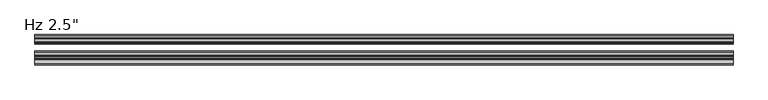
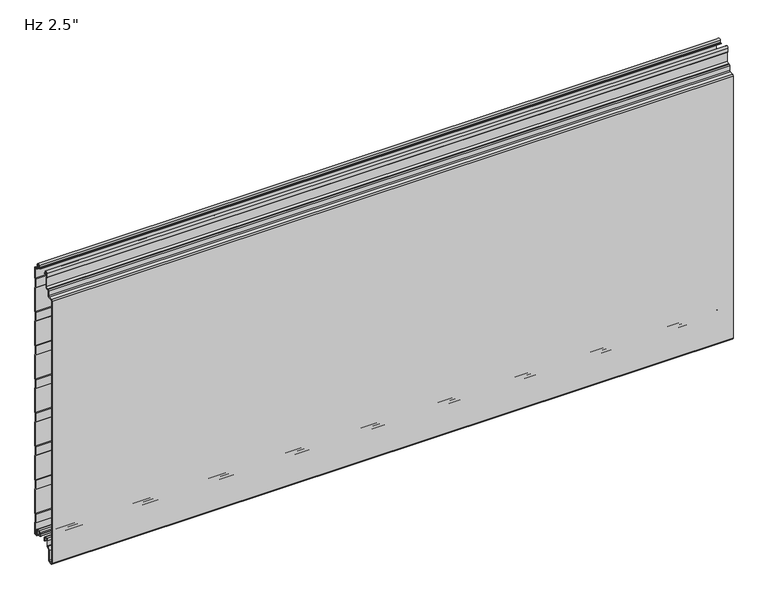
"""IFC4 building model written with IfcOpenShell, lengths in millimetres: plate geometry."""

from ifc_helpers import new_model, si_unit, point, frame, frame_2d, origin, place, context, project, spatial, polyline, circle_curve, trimmed, segment, composite_curve, outline, extrude, source, transform, mapped, element, save
from ifc_brep_helpers import plane_surface, cylinder_surface, revolved_surface, advanced_brep


def plate_216ce73a(model_context):
    return source(origin(), model_context, "Body", "SolidModel", [
        advanced_brep(
        [(-730.0, -17.0015159, 2.0313088), (-730.0, -18.0015191, 1.0313116), (-730.0, -19.0015104, 2.0313088), (-730.0, -19.0015105, 6.0315125), (-730.0, -18.0015159, 6.0315125), (-730.0, -18.0015159, 8.7237223), (-730.0, -14.7015202, 12.023718), (-730.0, -10.301529, 12.023718), (-730.0, -7.0015335, 8.7237225), (-730.0, -7.0015335, -1.6962564), (-730.0, -5.2315393, -3.4662506), (-730.0, -0.9999916, -3.4662506), (-730.0, -0.9999916, 21.034026), (-730.0, -2.2002307, 22.4196686), (-730.0, -2.2002307, 41.7948349), (-730.0, -1.0, 43.1804679), (-730.0, -1.0, 97.2338833), (-730.0, -2.2002307, 98.6195162), (-730.0, -2.2002307, 117.9946825), (-730.0, -1.0, 119.3803155), (-730.0, -1.0, 173.4337309), (-730.0, -2.2002307, 174.8193638), (-730.0, -2.2002307, 194.1945301), (-730.0, -1.0, 195.5801631), (-730.0, -1.0, 249.6335785), (-730.0, -2.2002307, 251.0192114), (-730.0, -2.2002307, 270.3943777), (-730.0, -1.0, 271.7800107), (-730.0, -1.0, 325.8334261), (-730.0, -2.2002307, 327.219059), (-730.0, -2.2002307, 346.5942253), (-730.0, -1.0, 347.9798583), (-730.0, -1.0, 402.0332737), (-730.0, -2.2002307, 403.4189066), (-730.0, -2.2002307, 422.7940729), (-730.0, -1.0, 424.1797059), (-730.0, -1.0, 478.2331213), (-730.0, -2.2002307, 479.6187542), (-730.0, -2.2002307, 498.9939205), (-730.0, -1.0, 500.3795535), (-730.0, -1.0, 554.4329689), (-730.0, -2.2002307, 555.8186018), (-730.0, -2.2002307, 575.1937681), (-730.0, -1.0, 576.5794011), (-730.0, -1.0, 601.0787013), (-730.0, -6.0026007, 601.0787013), (-730.0, -9.9974365, 604.9016499), (-730.0, -10.4046442, 613.3931719), (-730.0, -14.7059822, 613.3921924), (-730.0, -14.9256429, 609.2513685), (-730.0, -16.6743462, 607.5686884), (-730.0, -19.0015288, 607.5686884), (-730.0, -19.0015288, 608.5686884), (-730.0, -16.6743462, 608.5686884), (-730.0, -15.9247038, 609.2955779), (-730.0, -15.7045782, 613.4451655), (-730.0, -9.405912, 613.4435732), (-730.0, -8.9985844, 604.9495495), (-730.0, -6.0004836, 602.0787013), (-730.0, -1.4015652, 602.0787013), (-730.0, -0.001568, 600.678797), (-730.0, 2.09e-05, 576.7275849), (-730.0, -0.3417885, 575.8119353), (-730.0, -1.2002307, 574.8208877), (-730.0, -1.2002307, 556.1914823), (-730.0, -0.3417885, 555.2004346), (-730.0, 0.0, 554.2838177), (-730.0, 0.0, 500.5287046), (-730.0, -0.3417885, 499.6120877), (-730.0, -1.2002307, 498.6210401), (-730.0, -1.2002307, 479.9916347), (-730.0, -0.3417885, 479.000587), (-730.0, 0.0, 478.0839701), (-730.0, 0.0, 424.328857), (-730.0, -0.3417885, 423.4122401), (-730.0, -1.2002307, 422.4211925), (-730.0, -1.2002307, 403.7917871), (-730.0, -0.3417885, 402.8007394), (-730.0, 0.0, 401.8841225), (-730.0, 0.0, 348.1290094), (-730.0, -0.3417885, 347.2123925), (-730.0, -1.2002307, 346.2213449), (-730.0, -1.2002307, 327.5919395), (-730.0, -0.3417885, 326.6008918), (-730.0, 0.0, 325.6842749), (-730.0, 0.0, 271.9291618), (-730.0, -0.3417885, 271.0125449), (-730.0, -1.2002307, 270.0214973), (-730.0, -1.2002307, 251.3920919), (-730.0, -0.3417885, 250.4010442), (-730.0, 0.0, 249.4844273), (-730.0, 0.0, 195.7293142), (-730.0, -0.3417885, 194.8126973), (-730.0, -1.2002307, 193.8216497), (-730.0, -1.2002307, 175.1922443), (-730.0, -0.3417885, 174.2011966), (-730.0, 0.0, 173.2845797), (-730.0, 0.0, 119.5294666), (-730.0, -0.3417885, 118.6128497), (-730.0, -1.2002307, 117.6218021), (-730.0, -1.2002307, 98.9923967), (-730.0, -0.3417885, 98.001349), (-730.0, 0.0, 97.0847321), (-730.0, 0.0, 43.329619), (-730.0, -0.3417885, 42.4130021), (-730.0, -1.2002307, 41.4219545), (-730.0, -1.2002307, 22.7925491), (-730.0, -0.3417885, 21.8015014), (-730.0, 0.0, 20.8847931), (-730.0, 8.4e-06, -3.0662545), (-730.0, -1.3999878, -4.4662506), (-730.0, -5.2315393, -4.4662506), (-730.0, -8.0015335, -1.6962564), (-730.0, -8.0015335, 8.7237225), (-730.0, -10.301529, 11.023718), (-730.0, -14.7015202, 11.023718), (-730.0, -17.0015159, 8.7237223), (730.0, -17.0015159, 2.0313088), (730.0, -17.0015159, 8.7237223), (730.0, -14.7015202, 11.023718), (730.0, -10.301529, 11.023718), (730.0, -8.0015335, 8.7237225), (730.0, -8.0015335, -1.6962564), (730.0, -5.2315393, -4.4662506), (730.0, -1.3999878, -4.4662506), (730.0, 8.4e-06, -3.0662545), (730.0, 8.4e-06, 20.8848845), (730.0, -0.3417885, 21.8015014), (730.0, -1.2002307, 22.7925491), (730.0, -1.2002307, 41.4219545), (730.0, -0.3417885, 42.4130021), (730.0, 0.0, 43.329619), (730.0, 0.0, 97.0847321), (730.0, -0.3417885, 98.001349), (730.0, -1.2002307, 98.9923967), (730.0, -1.2002307, 117.6218021), (730.0, -0.3417885, 118.6128497), (730.0, 0.0, 119.5294666), (730.0, 0.0, 173.2845797), (730.0, -0.3417885, 174.2011966), (730.0, -1.2002307, 175.1922443), (730.0, -1.2002307, 193.8216497), (730.0, -0.3417885, 194.8126973), (730.0, 0.0, 195.7293142), (730.0, 0.0, 249.4844273), (730.0, -0.3417885, 250.4010442), (730.0, -1.2002307, 251.3920919), (730.0, -1.2002307, 270.0214973), (730.0, -0.3417885, 271.0125449), (730.0, 0.0, 271.9291618), (730.0, 0.0, 325.6842749), (730.0, -0.3417885, 326.6008918), (730.0, -1.2002307, 327.5919395), (730.0, -1.2002307, 346.2213449), (730.0, -0.3417885, 347.2123925), (730.0, 0.0, 348.1290094), (730.0, 0.0, 401.8841225), (730.0, -0.3417885, 402.8007394), (730.0, -1.2002307, 403.7917871), (730.0, -1.2002307, 422.4211925), (730.0, -0.3417885, 423.4122401), (730.0, 0.0, 424.328857), (730.0, 0.0, 478.0839701), (730.0, -0.3417885, 479.000587), (730.0, -1.2002307, 479.9916347), (730.0, -1.2002307, 498.6210401), (730.0, -0.3417885, 499.6120877), (730.0, 0.0, 500.5287046), (730.0, 0.0, 554.2838177), (730.0, -0.3417885, 555.2004346), (730.0, -1.2002307, 556.1914823), (730.0, -1.2002307, 574.8208877), (730.0, -0.3417885, 575.8119353), (730.0, 0.0, 576.7285522), (730.0, 2.09e-05, 600.678797), (730.0, -1.4015652, 602.0787013), (730.0, -6.0004836, 602.0787013), (730.0, -8.9985844, 604.9495495), (730.0, -9.405912, 613.4435732), (730.0, -15.7045782, 613.4451655), (730.0, -15.9247038, 609.2955779), (730.0, -16.6743462, 608.5686884), (730.0, -19.0015288, 608.5686884), (730.0, -19.0015288, 607.5686884), (730.0, -16.6743462, 607.5686884), (730.0, -14.9256429, 609.2513685), (730.0, -14.7059822, 613.3921924), (730.0, -10.4046442, 613.3931719), (730.0, -9.9974365, 604.9016499), (730.0, -6.0026007, 601.0787013), (730.0, -1.0, 601.0787013), (730.0, -1.0, 576.5794011), (730.0, -2.2002307, 575.1937681), (730.0, -2.2002307, 555.8186018), (730.0, -1.0, 554.4329689), (730.0, -1.0, 500.3795535), (730.0, -2.2002307, 498.9939205), (730.0, -2.2002307, 479.6187542), (730.0, -1.0, 478.2331213), (730.0, -1.0, 424.1797059), (730.0, -2.2002307, 422.7940729), (730.0, -2.2002307, 403.4189066), (730.0, -1.0, 402.0332737), (730.0, -1.0, 347.9798583), (730.0, -2.2002307, 346.5942253), (730.0, -2.2002307, 327.219059), (730.0, -1.0, 325.8334261), (730.0, -1.0, 271.7800107), (730.0, -2.2002307, 270.3943777), (730.0, -2.2002307, 251.0192114), (730.0, -1.0, 249.6335785), (730.0, -1.0, 195.5801631), (730.0, -2.2002307, 194.1945301), (730.0, -2.2002307, 174.8193638), (730.0, -1.0, 173.4337309), (730.0, -1.0, 119.3803155), (730.0, -2.2002307, 117.9946825), (730.0, -2.2002307, 98.6195162), (730.0, -1.0, 97.2338833), (730.0, -1.0, 43.1804679), (730.0, -2.2002307, 41.7948349), (730.0, -2.2002307, 22.4196686), (730.0, -0.9999916, 21.034026), (730.0, -0.9999916, -3.4662506), (730.0, -5.2315393, -3.4662506), (730.0, -7.0015335, -1.6962564), (730.0, -7.0015335, 8.7237225), (730.0, -10.301529, 12.023718), (730.0, -14.7015202, 12.023718), (730.0, -18.0015159, 8.7237223), (730.0, -18.0015159, 6.0315125), (730.0, -19.0015105, 6.0315125), (730.0, -19.0015105, 2.0313088), (730.0, -18.0015191, 1.0313116)],
        [
            (0, 1, circle_curve(frame((-730.0, -18.0015132, 2.0313088), z_axis=(-1.0, 0.0, 0.0), x_axis=(0.0, 0.0, 1.0)), 0.9999973)),
            (1, 2, circle_curve(frame((-730.0, -18.0015132, 2.0313088), z_axis=(-1.0, 0.0, 0.0), x_axis=(0.0, 0.0, 1.0)), 0.9999972)),
            (2, 3),
            (3, 4),
            (4, 5),
            (5, 6, circle_curve(frame((-730.0, -14.7015202, 8.7237223), z_axis=(-1.0, 0.0, 0.0), x_axis=(0.0, 0.0, 1.0)), 3.2999957)),
            (6, 7),
            (7, 8, circle_curve(frame((-730.0, -10.301529, 8.7237225), z_axis=(-1.0, 0.0, 0.0), x_axis=(0.0, 0.0, 1.0)), 3.2999955)),
            (8, 9),
            (9, 10, circle_curve(frame((-730.0, -5.2315393, -1.6962564), z_axis=(1.0, 0.0, 0.0), x_axis=(0.0, 0.0, 1.0)), 1.7699942)),
            (10, 11),
            (11, 12),
            (12, 13),
            (13, 14),
            (14, 15),
            (15, 16),
            (16, 17),
            (17, 18),
            (18, 19),
            (19, 20),
            (20, 21),
            (21, 22),
            (22, 23),
            (23, 24),
            (24, 25),
            (25, 26),
            (26, 27),
            (27, 28),
            (28, 29),
            (29, 30),
            (30, 31),
            (31, 32),
            (32, 33),
            (33, 34),
            (34, 35),
            (35, 36),
            (36, 37),
            (37, 38),
            (38, 39),
            (39, 40),
            (40, 41),
            (41, 42),
            (42, 43),
            (43, 44),
            (44, 45),
            (45, 46, circle_curve(frame((-730.0, -5.9867338, 605.0939817), z_axis=(-1.0, 0.0, 0.0), x_axis=(0.0, 0.0, 1.0)), 4.0153117)),
            (46, 47),
            (47, 48, circle_curve(frame((-730.0, -12.5552871, 613.2781032), z_axis=(1.0, 0.0, 0.0), x_axis=(0.0, 0.0, 1.0)), 2.153719)),
            (48, 49),
            (49, 50, circle_curve(frame((-730.0, -16.6743462, 609.3186869), z_axis=(-1.0, 0.0, 0.0), x_axis=(0.0, 0.0, 1.0)), 1.7499985)),
            (50, 51),
            (51, 52),
            (52, 53),
            (53, 54, circle_curve(frame((-730.0, -16.6743462, 609.3186869), z_axis=(1.0, 0.0, 0.0), x_axis=(0.0, 0.0, 1.0)), 0.7499985)),
            (54, 55),
            (55, 56, circle_curve(frame((-730.0, -12.5552871, 613.2781032), z_axis=(-1.0, 0.0, 0.0), x_axis=(0.0, 0.0, 1.0)), 3.153719)),
            (56, 57),
            (57, 58, circle_curve(frame((-730.0, -5.9867338, 605.0939817), z_axis=(1.0, 0.0, 0.0), x_axis=(0.0, 0.0, 1.0)), 3.0153117)),
            (58, 59),
            (59, 60, circle_curve(frame((-730.0, -1.4015652, 600.6787041), z_axis=(-1.0, 0.0, 0.0), x_axis=(0.0, 0.0, 1.0)), 1.3999972)),
            (60, 61),
            (61, 62, circle_curve(frame((-730.0, -1.3999972, 576.7285522), z_axis=(-1.0, 0.0, 0.0), x_axis=(0.0, 0.0, 1.0)), 1.3999972)),
            (62, 63),
            (63, 64),
            (64, 65),
            (65, 66, circle_curve(frame((-730.0, -1.3999972, 554.2838177), z_axis=(-1.0, 0.0, 0.0), x_axis=(0.0, 0.0, 1.0)), 1.3999972)),
            (66, 67),
            (67, 68, circle_curve(frame((-730.0, -1.3999972, 500.5287046), z_axis=(-1.0, 0.0, 0.0), x_axis=(0.0, 0.0, 1.0)), 1.3999972)),
            (68, 69),
            (69, 70),
            (70, 71),
            (71, 72, circle_curve(frame((-730.0, -1.3999972, 478.0839701), z_axis=(-1.0, 0.0, 0.0), x_axis=(0.0, 0.0, 1.0)), 1.3999972)),
            (72, 73),
            (73, 74, circle_curve(frame((-730.0, -1.3999972, 424.328857), z_axis=(-1.0, 0.0, 0.0), x_axis=(0.0, 0.0, 1.0)), 1.3999972)),
            (74, 75),
            (75, 76),
            (76, 77),
            (77, 78, circle_curve(frame((-730.0, -1.3999972, 401.8841225), z_axis=(-1.0, 0.0, 0.0), x_axis=(0.0, 0.0, 1.0)), 1.3999972)),
            (78, 79),
            (79, 80, circle_curve(frame((-730.0, -1.3999972, 348.1290094), z_axis=(-1.0, 0.0, 0.0), x_axis=(0.0, 0.0, 1.0)), 1.3999972)),
            (80, 81),
            (81, 82),
            (82, 83),
            (83, 84, circle_curve(frame((-730.0, -1.3999972, 325.6842749), z_axis=(-1.0, 0.0, 0.0), x_axis=(0.0, 0.0, 1.0)), 1.3999972)),
            (84, 85),
            (85, 86, circle_curve(frame((-730.0, -1.3999972, 271.9291618), z_axis=(-1.0, 0.0, 0.0), x_axis=(0.0, 0.0, 1.0)), 1.3999972)),
            (86, 87),
            (87, 88),
            (88, 89),
            (89, 90, circle_curve(frame((-730.0, -1.3999972, 249.4844273), z_axis=(-1.0, 0.0, 0.0), x_axis=(0.0, 0.0, 1.0)), 1.3999972)),
            (90, 91),
            (91, 92, circle_curve(frame((-730.0, -1.3999972, 195.7293142), z_axis=(-1.0, 0.0, 0.0), x_axis=(0.0, 0.0, 1.0)), 1.3999972)),
            (92, 93),
            (93, 94),
            (94, 95),
            (95, 96, circle_curve(frame((-730.0, -1.3999972, 173.2845797), z_axis=(-1.0, 0.0, 0.0), x_axis=(0.0, 0.0, 1.0)), 1.3999972)),
            (96, 97),
            (97, 98, circle_curve(frame((-730.0, -1.3999972, 119.5294666), z_axis=(-1.0, 0.0, 0.0), x_axis=(0.0, 0.0, 1.0)), 1.3999972)),
            (98, 99),
            (99, 100),
            (100, 101),
            (101, 102, circle_curve(frame((-730.0, -1.3999972, 97.0847321), z_axis=(-1.0, 0.0, 0.0), x_axis=(0.0, 0.0, 1.0)), 1.3999972)),
            (102, 103),
            (103, 104, circle_curve(frame((-730.0, -1.3999972, 43.329619), z_axis=(-1.0, 0.0, 0.0), x_axis=(0.0, 0.0, 1.0)), 1.3999972)),
            (104, 105),
            (105, 106),
            (106, 107),
            (107, 108, circle_curve(frame((-730.0, -1.3999972, 20.8848845), z_axis=(-1.0, 0.0, 0.0), x_axis=(0.0, 0.0, 1.0)), 1.3999972)),
            (108, 109),
            (109, 110, circle_curve(frame((-730.0, -1.3999878, -3.0662545), z_axis=(-1.0, 0.0, 0.0), x_axis=(0.0, 0.0, 1.0)), 1.3999962)),
            (110, 111),
            (111, 112, circle_curve(frame((-730.0, -5.2315393, -1.6962564), z_axis=(-1.0, 0.0, 0.0), x_axis=(0.0, 0.0, 1.0)), 2.7699942)),
            (112, 113),
            (113, 114, circle_curve(frame((-730.0, -10.301529, 8.7237225), z_axis=(1.0, 0.0, 0.0), x_axis=(0.0, 0.0, 1.0)), 2.2999955)),
            (114, 115),
            (115, 116, circle_curve(frame((-730.0, -14.7015202, 8.7237223), z_axis=(1.0, 0.0, 0.0), x_axis=(0.0, 0.0, 1.0)), 2.2999957)),
            (116, 0),
            (117, 118),
            (118, 119, circle_curve(frame((730.0, -14.7015202, 8.7237223), z_axis=(-1.0, 0.0, 0.0), x_axis=(0.0, 0.0, 1.0)), 2.2999957)),
            (119, 120),
            (120, 121, circle_curve(frame((730.0, -10.301529, 8.7237225), z_axis=(-1.0, 0.0, 0.0), x_axis=(0.0, 0.0, 1.0)), 2.2999955)),
            (121, 122),
            (122, 123, circle_curve(frame((730.0, -5.2315393, -1.6962564), z_axis=(1.0, 0.0, 0.0), x_axis=(0.0, 0.0, 1.0)), 2.7699942)),
            (123, 124),
            (124, 125, circle_curve(frame((730.0, -1.3999878, -3.0662545), z_axis=(1.0, 0.0, 0.0), x_axis=(0.0, 0.0, 1.0)), 1.3999962)),
            (125, 126),
            (126, 127, circle_curve(frame((730.0, -1.3999972, 20.8848845), z_axis=(1.0, 0.0, 0.0), x_axis=(0.0, 0.0, 1.0)), 1.3999972)),
            (127, 128),
            (128, 129),
            (129, 130),
            (130, 131, circle_curve(frame((730.0, -1.3999972, 43.329619), z_axis=(1.0, 0.0, 0.0), x_axis=(0.0, 0.0, 1.0)), 1.3999972)),
            (131, 132),
            (132, 133, circle_curve(frame((730.0, -1.3999972, 97.0847321), z_axis=(1.0, 0.0, 0.0), x_axis=(0.0, 0.0, 1.0)), 1.3999972)),
            (133, 134),
            (134, 135),
            (135, 136),
            (136, 137, circle_curve(frame((730.0, -1.3999972, 119.5294666), z_axis=(1.0, 0.0, 0.0), x_axis=(0.0, 0.0, 1.0)), 1.3999972)),
            (137, 138),
            (138, 139, circle_curve(frame((730.0, -1.3999972, 173.2845797), z_axis=(1.0, 0.0, 0.0), x_axis=(0.0, 0.0, 1.0)), 1.3999972)),
            (139, 140),
            (140, 141),
            (141, 142),
            (142, 143, circle_curve(frame((730.0, -1.3999972, 195.7293142), z_axis=(1.0, 0.0, 0.0), x_axis=(0.0, 0.0, 1.0)), 1.3999972)),
            (143, 144),
            (144, 145, circle_curve(frame((730.0, -1.3999972, 249.4844273), z_axis=(1.0, 0.0, 0.0), x_axis=(0.0, 0.0, 1.0)), 1.3999972)),
            (145, 146),
            (146, 147),
            (147, 148),
            (148, 149, circle_curve(frame((730.0, -1.3999972, 271.9291618), z_axis=(1.0, 0.0, 0.0), x_axis=(0.0, 0.0, 1.0)), 1.3999972)),
            (149, 150),
            (150, 151, circle_curve(frame((730.0, -1.3999972, 325.6842749), z_axis=(1.0, 0.0, 0.0), x_axis=(0.0, 0.0, 1.0)), 1.3999972)),
            (151, 152),
            (152, 153),
            (153, 154),
            (154, 155, circle_curve(frame((730.0, -1.3999972, 348.1290094), z_axis=(1.0, 0.0, 0.0), x_axis=(0.0, 0.0, 1.0)), 1.3999972)),
            (155, 156),
            (156, 157, circle_curve(frame((730.0, -1.3999972, 401.8841225), z_axis=(1.0, 0.0, 0.0), x_axis=(0.0, 0.0, 1.0)), 1.3999972)),
            (157, 158),
            (158, 159),
            (159, 160),
            (160, 161, circle_curve(frame((730.0, -1.3999972, 424.328857), z_axis=(1.0, 0.0, 0.0), x_axis=(0.0, 0.0, 1.0)), 1.3999972)),
            (161, 162),
            (162, 163, circle_curve(frame((730.0, -1.3999972, 478.0839701), z_axis=(1.0, 0.0, 0.0), x_axis=(0.0, 0.0, 1.0)), 1.3999972)),
            (163, 164),
            (164, 165),
            (165, 166),
            (166, 167, circle_curve(frame((730.0, -1.3999972, 500.5287046), z_axis=(1.0, 0.0, 0.0), x_axis=(0.0, 0.0, 1.0)), 1.3999972)),
            (167, 168),
            (168, 169, circle_curve(frame((730.0, -1.3999972, 554.2838177), z_axis=(1.0, 0.0, 0.0), x_axis=(0.0, 0.0, 1.0)), 1.3999972)),
            (169, 170),
            (170, 171),
            (171, 172),
            (172, 173, circle_curve(frame((730.0, -1.3999972, 576.7285522), z_axis=(1.0, 0.0, 0.0), x_axis=(0.0, 0.0, 1.0)), 1.3999972)),
            (173, 174),
            (174, 175, circle_curve(frame((730.0, -1.4015652, 600.6787041), z_axis=(1.0, 0.0, 0.0), x_axis=(0.0, 0.0, 1.0)), 1.3999972)),
            (175, 176),
            (176, 177, circle_curve(frame((730.0, -5.9867338, 605.0939817), z_axis=(-1.0, 0.0, 0.0), x_axis=(0.0, 0.0, 1.0)), 3.0153117)),
            (177, 178),
            (178, 179, circle_curve(frame((730.0, -12.5552871, 613.2781032), z_axis=(1.0, 0.0, 0.0), x_axis=(0.0, 0.0, 1.0)), 3.153719)),
            (179, 180),
            (180, 181, circle_curve(frame((730.0, -16.6743462, 609.3186869), z_axis=(-1.0, 0.0, 0.0), x_axis=(0.0, 0.0, 1.0)), 0.7499985)),
            (181, 182),
            (182, 183),
            (183, 184),
            (184, 185, circle_curve(frame((730.0, -16.6743462, 609.3186869), z_axis=(1.0, 0.0, 0.0), x_axis=(0.0, 0.0, 1.0)), 1.7499985)),
            (185, 186),
            (186, 187, circle_curve(frame((730.0, -12.5552871, 613.2781032), z_axis=(-1.0, 0.0, 0.0), x_axis=(0.0, 0.0, 1.0)), 2.153719)),
            (187, 188),
            (188, 189, circle_curve(frame((730.0, -5.9867338, 605.0939817), z_axis=(1.0, 0.0, 0.0), x_axis=(0.0, 0.0, 1.0)), 4.0153117)),
            (189, 190),
            (190, 191),
            (191, 192),
            (192, 193),
            (193, 194),
            (194, 195),
            (195, 196),
            (196, 197),
            (197, 198),
            (198, 199),
            (199, 200),
            (200, 201),
            (201, 202),
            (202, 203),
            (203, 204),
            (204, 205),
            (205, 206),
            (206, 207),
            (207, 208),
            (208, 209),
            (209, 210),
            (210, 211),
            (211, 212),
            (212, 213),
            (213, 214),
            (214, 215),
            (215, 216),
            (216, 217),
            (217, 218),
            (218, 219),
            (219, 220),
            (220, 221),
            (221, 222),
            (222, 223),
            (223, 224),
            (224, 225, circle_curve(frame((730.0, -5.2315393, -1.6962564), z_axis=(-1.0, 0.0, 0.0), x_axis=(0.0, 0.0, 1.0)), 1.7699942)),
            (225, 226),
            (226, 227, circle_curve(frame((730.0, -10.301529, 8.7237225), z_axis=(1.0, 0.0, 0.0), x_axis=(0.0, 0.0, 1.0)), 3.2999955)),
            (227, 228),
            (228, 229, circle_curve(frame((730.0, -14.7015202, 8.7237223), z_axis=(1.0, 0.0, 0.0), x_axis=(0.0, 0.0, 1.0)), 3.2999957)),
            (229, 230),
            (230, 231),
            (231, 232),
            (232, 233, circle_curve(frame((730.0, -18.0015132, 2.0313088), z_axis=(1.0, 0.0, 0.0), x_axis=(0.0, 0.0, 1.0)), 0.9999972)),
            (233, 117, circle_curve(frame((730.0, -18.0015132, 2.0313088), z_axis=(1.0, 0.0, 0.0), x_axis=(0.0, 0.0, 1.0)), 0.9999973)),
            (116, 118),
            (117, 0),
            (115, 119),
            (114, 120),
            (113, 121),
            (112, 122),
            (111, 123),
            (110, 124),
            (109, 125),
            (108, 126),
            (90, 144),
            (143, 91),
            (107, 127),
            (106, 128),
            (105, 129),
            (103, 131),
            (130, 104),
            (101, 133),
            (132, 102),
            (86, 148),
            (147, 87),
            (142, 92),
            (141, 93),
            (96, 138),
            (137, 97),
            (89, 145),
            (88, 146),
            (85, 149),
            (136, 98),
            (99, 135),
            (134, 100),
            (95, 139),
            (94, 140),
            (2, 232),
            (231, 3),
            (1, 233),
            (84, 150),
            (83, 151),
            (82, 152),
            (81, 153),
            (80, 154),
            (79, 155),
            (78, 156),
            (77, 157),
            (76, 158),
            (75, 159),
            (74, 160),
            (73, 161),
            (72, 162),
            (71, 163),
            (70, 164),
            (69, 165),
            (68, 166),
            (67, 167),
            (66, 168),
            (65, 169),
            (64, 170),
            (63, 171),
            (62, 172),
            (61, 173),
            (60, 174),
            (59, 175),
            (58, 176),
            (57, 177),
            (56, 178),
            (55, 179),
            (54, 180),
            (53, 181),
            (52, 182),
            (51, 183),
            (50, 184),
            (49, 185),
            (48, 186),
            (47, 187),
            (46, 188),
            (45, 189),
            (44, 190),
            (43, 191),
            (42, 192),
            (41, 193),
            (40, 194),
            (39, 195),
            (38, 196),
            (37, 197),
            (36, 198),
            (35, 199),
            (34, 200),
            (33, 201),
            (32, 202),
            (31, 203),
            (30, 204),
            (29, 205),
            (28, 206),
            (27, 207),
            (26, 208),
            (25, 209),
            (24, 210),
            (23, 211),
            (22, 212),
            (21, 213),
            (20, 214),
            (19, 215),
            (18, 216),
            (17, 217),
            (16, 218),
            (15, 219),
            (14, 220),
            (13, 221),
            (12, 222),
            (11, 223),
            (10, 224),
            (9, 225),
            (8, 226),
            (7, 227),
            (6, 228),
            (5, 229),
            (4, 230),
        ],
        [
            plane_surface(frame((-730.0, 0.0, 304.8), z_axis=(-1.0, 0.0, 0.0), x_axis=(0.0, 1.0, 0.0))),
            plane_surface(frame((730.0, 0.0, 304.8), z_axis=(1.0, 0.0, 0.0), x_axis=(0.0, 1.0, 0.0))),
            plane_surface(frame((-730.0, -17.0015159, 2.0313088), z_axis=(0.0, 1.0, 0.0), x_axis=(1.0, 0.0, 0.0))),
            revolved_surface(polyline([(730.0, -14.7015202, 11.023718), (-730.0, -14.7015202, 11.023718)]), (-730.0, -14.7015202, 8.7237223), (1.0, 0.0, 0.0)),
            plane_surface(frame((-730.0, -14.7015202, 11.023718), z_axis=(0.0, 0.0, -1.0), x_axis=(1.0, 0.0, 0.0))),
            revolved_surface(polyline([(730.0, -10.301529, 11.023717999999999), (-730.0, -10.301529, 11.023717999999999)]), (-730.0, -10.301529, 8.7237225), (1.0, 0.0, 0.0)),
            plane_surface(frame((-730.0, -8.0015335, 8.7237225), z_axis=(0.0, -1.0, 0.0), x_axis=(1.0, 0.0, 0.0))),
            cylinder_surface(frame((-730.0, -5.2315393, -1.6962564), z_axis=(-1.0, 0.0, 0.0), x_axis=(0.0, 0.0, 1.0)), 2.7699942),
            plane_surface(frame((-730.0, -5.2315393, -4.4662506), z_axis=(0.0, 0.0, -1.0), x_axis=(1.0, 0.0, 0.0))),
            cylinder_surface(frame((-730.0, -1.3999878, -3.0662545), z_axis=(-1.0, 0.0, 0.0), x_axis=(0.0, 0.0, 1.0)), 1.3999962),
            plane_surface(frame((-730.0, 8.4e-06, -3.0662545), z_axis=(0.0, 1.0, 0.0), x_axis=(1.0, 0.0, 0.0))),
            plane_surface(frame((-730.0, 0.0, 195.7293142), z_axis=(0.0, 1.0, 0.0), x_axis=(1.0, 0.0, 0.0))),
            cylinder_surface(frame((-730.0, -1.3999972, 20.8848845), z_axis=(-1.0, 0.0, 0.0), x_axis=(0.0, 0.0, 1.0)), 1.3999972),
            plane_surface(frame((-730.0, -0.3417885, 21.8015014), z_axis=(0.0, 0.755864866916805, 0.6547276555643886), x_axis=(1.0, 0.0, 0.0))),
            plane_surface(frame((-730.0, -1.2002307, 32.1072518), z_axis=(0.0, 1.0, 0.0), x_axis=(1.0, 0.0, 0.0))),
            cylinder_surface(frame((-730.0, -1.3999972, 43.329619), z_axis=(-1.0, 0.0, 0.0), x_axis=(0.0, 0.0, 1.0)), 1.3999972),
            plane_surface(frame((-730.0, -1.2002307, 41.4219545), z_axis=(0.0, 0.755864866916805, -0.6547276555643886), x_axis=(1.0, 0.0, 0.0))),
            cylinder_surface(frame((-730.0, -1.3999972, 97.0847321), z_axis=(-1.0, 0.0, 0.0), x_axis=(0.0, 0.0, 1.0)), 1.3999972),
            plane_surface(frame((-730.0, -1.2002307, 270.0214973), z_axis=(0.0, 0.755864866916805, -0.6547276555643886), x_axis=(1.0, 0.0, 0.0))),
            cylinder_surface(frame((-730.0, -1.3999972, 195.7293142), z_axis=(-1.0, 0.0, 0.0), x_axis=(0.0, 0.0, 1.0)), 1.3999972),
            plane_surface(frame((-730.0, -1.2002307, 193.8216497), z_axis=(0.0, 0.755864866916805, -0.6547276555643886), x_axis=(1.0, 0.0, 0.0))),
            plane_surface(frame((-730.0, 0.0, 119.5294666), z_axis=(0.0, 1.0, 0.0), x_axis=(1.0, 0.0, 0.0))),
            cylinder_surface(frame((-730.0, -1.3999972, 249.4844273), z_axis=(-1.0, 0.0, 0.0), x_axis=(0.0, 0.0, 1.0)), 1.3999972),
            plane_surface(frame((-730.0, -0.3417885, 250.4010442), z_axis=(0.0, 0.755864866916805, 0.6547276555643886), x_axis=(1.0, 0.0, 0.0))),
            plane_surface(frame((-730.0, -1.2002307, 260.7067946), z_axis=(0.0, 1.0, 0.0), x_axis=(1.0, 0.0, 0.0))),
            cylinder_surface(frame((-730.0, -1.3999972, 271.9291618), z_axis=(-1.0, 0.0, 0.0), x_axis=(0.0, 0.0, 1.0)), 1.3999972),
            cylinder_surface(frame((-730.0, -1.3999972, 119.5294666), z_axis=(-1.0, 0.0, 0.0), x_axis=(0.0, 0.0, 1.0)), 1.3999972),
            plane_surface(frame((-730.0, -1.2002307, 108.3070994), z_axis=(0.0, 1.0, 0.0), x_axis=(1.0, 0.0, 0.0))),
            plane_surface(frame((-730.0, -0.3417885, 98.001349), z_axis=(0.0, 0.755864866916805, 0.6547276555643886), x_axis=(1.0, 0.0, 0.0))),
            plane_surface(frame((-730.0, -1.2002307, 117.6218021), z_axis=(0.0, 0.755864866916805, -0.6547276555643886), x_axis=(1.0, 0.0, 0.0))),
            plane_surface(frame((-730.0, 0.0, 43.329619), z_axis=(0.0, 1.0, 0.0), x_axis=(1.0, 0.0, 0.0))),
            cylinder_surface(frame((-730.0, -1.3999972, 173.2845797), z_axis=(-1.0, 0.0, 0.0), x_axis=(0.0, 0.0, 1.0)), 1.3999972),
            plane_surface(frame((-730.0, -0.3417885, 174.2011966), z_axis=(0.0, 0.755864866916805, 0.6547276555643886), x_axis=(1.0, 0.0, 0.0))),
            plane_surface(frame((-730.0, -1.2002307, 184.506947), z_axis=(0.0, 1.0, 0.0), x_axis=(1.0, 0.0, 0.0))),
            plane_surface(frame((-730.0, -19.0015105, 6.0315125), z_axis=(0.0, -1.0, 0.0), x_axis=(1.0, 0.0, 0.0))),
            cylinder_surface(frame((-730.0, -18.0015132, 2.0313088), z_axis=(-1.0, 0.0, 0.0), x_axis=(0.0, 0.0, 1.0)), 0.9999972),
            cylinder_surface(frame((-730.0, -18.0015132, 2.0313088), z_axis=(-1.0, 0.0, 0.0), x_axis=(0.0, 0.0, 1.0)), 0.9999973),
            plane_surface(frame((-730.0, 0.0, 271.9291618), z_axis=(0.0, 1.0, 0.0), x_axis=(1.0, 0.0, 0.0))),
            cylinder_surface(frame((-730.0, -1.3999972, 325.6842749), z_axis=(-1.0, 0.0, 0.0), x_axis=(0.0, 0.0, 1.0)), 1.3999972),
            plane_surface(frame((-730.0, -0.3417885, 326.6008918), z_axis=(0.0, 0.755864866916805, 0.6547276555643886), x_axis=(1.0, 0.0, 0.0))),
            plane_surface(frame((-730.0, -1.2002307, 336.9066422), z_axis=(0.0, 1.0, 0.0), x_axis=(1.0, 0.0, 0.0))),
            plane_surface(frame((-730.0, -1.2002307, 346.2213449), z_axis=(0.0, 0.755864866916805, -0.6547276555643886), x_axis=(1.0, 0.0, 0.0))),
            cylinder_surface(frame((-730.0, -1.3999972, 348.1290094), z_axis=(-1.0, 0.0, 0.0), x_axis=(0.0, 0.0, 1.0)), 1.3999972),
            plane_surface(frame((-730.0, 0.0, 348.1290094), z_axis=(0.0, 1.0, 0.0), x_axis=(1.0, 0.0, 0.0))),
            cylinder_surface(frame((-730.0, -1.3999972, 401.8841225), z_axis=(-1.0, 0.0, 0.0), x_axis=(0.0, 0.0, 1.0)), 1.3999972),
            plane_surface(frame((-730.0, -0.3417885, 402.8007394), z_axis=(0.0, 0.755864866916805, 0.6547276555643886), x_axis=(1.0, 0.0, 0.0))),
            plane_surface(frame((-730.0, -1.2002307, 413.1064898), z_axis=(0.0, 1.0, 0.0), x_axis=(1.0, 0.0, 0.0))),
            plane_surface(frame((-730.0, -1.2002307, 422.4211925), z_axis=(0.0, 0.755864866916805, -0.6547276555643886), x_axis=(1.0, 0.0, 0.0))),
            cylinder_surface(frame((-730.0, -1.3999972, 424.328857), z_axis=(-1.0, 0.0, 0.0), x_axis=(0.0, 0.0, 1.0)), 1.3999972),
            plane_surface(frame((-730.0, 0.0, 424.328857), z_axis=(0.0, 1.0, 0.0), x_axis=(1.0, 0.0, 0.0))),
            cylinder_surface(frame((-730.0, -1.3999972, 478.0839701), z_axis=(-1.0, 0.0, 0.0), x_axis=(0.0, 0.0, 1.0)), 1.3999972),
            plane_surface(frame((-730.0, -0.3417885, 479.000587), z_axis=(0.0, 0.755864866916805, 0.6547276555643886), x_axis=(1.0, 0.0, 0.0))),
            plane_surface(frame((-730.0, -1.2002307, 489.3063374), z_axis=(0.0, 1.0, 0.0), x_axis=(1.0, 0.0, 0.0))),
            plane_surface(frame((-730.0, -1.2002307, 498.6210401), z_axis=(0.0, 0.755864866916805, -0.6547276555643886), x_axis=(1.0, 0.0, 0.0))),
            cylinder_surface(frame((-730.0, -1.3999972, 500.5287046), z_axis=(-1.0, 0.0, 0.0), x_axis=(0.0, 0.0, 1.0)), 1.3999972),
            plane_surface(frame((-730.0, 0.0, 500.5287046), z_axis=(0.0, 1.0, 0.0), x_axis=(1.0, 0.0, 0.0))),
            cylinder_surface(frame((-730.0, -1.3999972, 554.2838177), z_axis=(-1.0, 0.0, 0.0), x_axis=(0.0, 0.0, 1.0)), 1.3999972),
            plane_surface(frame((-730.0, -0.3417885, 555.2004346), z_axis=(0.0, 0.755864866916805, 0.6547276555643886), x_axis=(1.0, 0.0, 0.0))),
            plane_surface(frame((-730.0, -1.2002307, 565.506185), z_axis=(0.0, 1.0, 0.0), x_axis=(1.0, 0.0, 0.0))),
            plane_surface(frame((-730.0, -1.2002307, 574.8208877), z_axis=(0.0, 0.755864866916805, -0.6547276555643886), x_axis=(1.0, 0.0, 0.0))),
            cylinder_surface(frame((-730.0, -1.3999972, 576.7285522), z_axis=(-1.0, 0.0, 0.0), x_axis=(0.0, 0.0, 1.0)), 1.3999972),
            plane_surface(frame((-730.0, 2.09e-05, 576.7275849), z_axis=(0.0, 1.0, 0.0), x_axis=(1.0, 0.0, 0.0))),
            cylinder_surface(frame((-730.0, -1.4015652, 600.6787041), z_axis=(-1.0, 0.0, 0.0), x_axis=(0.0, 0.0, 1.0)), 1.3999972),
            plane_surface(frame((-730.0, -1.4015652, 602.0787013), z_axis=(0.0, 0.0, 1.0), x_axis=(1.0, 0.0, 0.0))),
            revolved_surface(polyline([(730.0, -5.9867338, 608.1092934), (-730.0, -5.9867338, 608.1092934)]), (-730.0, -5.9867338, 605.0939817), (1.0, 0.0, 0.0)),
            plane_surface(frame((-730.0, -8.9985844, 604.9495495), z_axis=(0.0, 0.9988521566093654, 0.047899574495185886), x_axis=(1.0, 0.0, 0.0))),
            cylinder_surface(frame((-730.0, -12.5552871, 613.2781032), z_axis=(-1.0, 0.0, 0.0), x_axis=(0.0, 0.0, 1.0)), 3.153719),
            plane_surface(frame((-730.0, -15.7045782, 613.4451655), z_axis=(0.0, -0.9985959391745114, 0.05297310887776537), x_axis=(1.0, 0.0, 0.0))),
            revolved_surface(polyline([(730.0, -16.6743462, 610.0686853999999), (-730.0, -16.6743462, 610.0686853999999)]), (-730.0, -16.6743462, 609.3186869), (1.0, 0.0, 0.0)),
            plane_surface(frame((-730.0, -17.5871409, 608.5686884), z_axis=(0.0, 0.0, 1.0), x_axis=(1.0, 0.0, 0.0))),
            plane_surface(frame((-730.0, -19.0015288, 608.5686884), z_axis=(0.0, -1.0, 0.0), x_axis=(1.0, 0.0, 0.0))),
            plane_surface(frame((-730.0, -17.5871409, 607.5686884), z_axis=(0.0, 0.0, -1.0), x_axis=(1.0, 0.0, 0.0))),
            cylinder_surface(frame((-730.0, -16.6743462, 609.3186869), z_axis=(-1.0, 0.0, 0.0), x_axis=(0.0, 0.0, 1.0)), 1.7499985),
            plane_surface(frame((-730.0, -14.9256429, 609.2513685), z_axis=(0.0, 0.998595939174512, -0.05297310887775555), x_axis=(1.0, 0.0, 0.0))),
            revolved_surface(polyline([(730.0, -12.5552871, 615.4318222), (-730.0, -12.5552871, 615.4318222)]), (-730.0, -12.5552871, 613.2781032), (1.0, 0.0, 0.0)),
            plane_surface(frame((-730.0, -10.4046442, 613.3931719), z_axis=(0.0, -0.9988521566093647, -0.04789957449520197), x_axis=(1.0, 0.0, 0.0))),
            cylinder_surface(frame((-730.0, -5.9867338, 605.0939817), z_axis=(-1.0, 0.0, 0.0), x_axis=(0.0, 0.0, 1.0)), 4.0153117),
            plane_surface(frame((-730.0, -6.0026007, 601.0787013), z_axis=(0.0, 0.0, -1.0), x_axis=(1.0, 0.0, 0.0))),
            plane_surface(frame((-730.0, -1.0, 601.0787013), z_axis=(0.0, -1.0, 0.0), x_axis=(1.0, 0.0, 0.0))),
            plane_surface(frame((-730.0, -1.0, 576.5794011), z_axis=(0.0, -0.755864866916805, 0.6547276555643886), x_axis=(1.0, 0.0, 0.0))),
            plane_surface(frame((-730.0, -2.2002307, 575.1937681), z_axis=(0.0, -1.0, 0.0), x_axis=(1.0, 0.0, 0.0))),
            plane_surface(frame((-730.0, -2.2002307, 555.8186018), z_axis=(0.0, -0.755864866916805, -0.6547276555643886), x_axis=(1.0, 0.0, 0.0))),
            plane_surface(frame((-730.0, -1.0, 554.4329689), z_axis=(0.0, -1.0, 0.0), x_axis=(1.0, 0.0, 0.0))),
            plane_surface(frame((-730.0, -1.0, 500.3795535), z_axis=(0.0, -0.755864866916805, 0.6547276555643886), x_axis=(1.0, 0.0, 0.0))),
            plane_surface(frame((-730.0, -2.2002307, 498.9939205), z_axis=(0.0, -1.0, 0.0), x_axis=(1.0, 0.0, 0.0))),
            plane_surface(frame((-730.0, -2.2002307, 479.6187542), z_axis=(0.0, -0.755864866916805, -0.6547276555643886), x_axis=(1.0, 0.0, 0.0))),
            plane_surface(frame((-730.0, -1.0, 478.2331213), z_axis=(0.0, -1.0, 0.0), x_axis=(1.0, 0.0, 0.0))),
            plane_surface(frame((-730.0, -1.0, 424.1797059), z_axis=(0.0, -0.755864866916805, 0.6547276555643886), x_axis=(1.0, 0.0, 0.0))),
            plane_surface(frame((-730.0, -2.2002307, 422.7940729), z_axis=(0.0, -1.0, 0.0), x_axis=(1.0, 0.0, 0.0))),
            plane_surface(frame((-730.0, -2.2002307, 403.4189066), z_axis=(0.0, -0.755864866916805, -0.6547276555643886), x_axis=(1.0, 0.0, 0.0))),
            plane_surface(frame((-730.0, -1.0, 402.0332737), z_axis=(0.0, -1.0, 0.0), x_axis=(1.0, 0.0, 0.0))),
            plane_surface(frame((-730.0, -1.0, 347.9798583), z_axis=(0.0, -0.755864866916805, 0.6547276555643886), x_axis=(1.0, 0.0, 0.0))),
            plane_surface(frame((-730.0, -2.2002307, 346.5942253), z_axis=(0.0, -1.0, 0.0), x_axis=(1.0, 0.0, 0.0))),
            plane_surface(frame((-730.0, -2.2002307, 327.219059), z_axis=(0.0, -0.755864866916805, -0.6547276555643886), x_axis=(1.0, 0.0, 0.0))),
            plane_surface(frame((-730.0, -1.0, 325.8334261), z_axis=(0.0, -1.0, 0.0), x_axis=(1.0, 0.0, 0.0))),
            plane_surface(frame((-730.0, -1.0, 271.7800107), z_axis=(0.0, -0.755864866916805, 0.6547276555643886), x_axis=(1.0, 0.0, 0.0))),
            plane_surface(frame((-730.0, -2.2002307, 270.3943777), z_axis=(0.0, -1.0, 0.0), x_axis=(1.0, 0.0, 0.0))),
            plane_surface(frame((-730.0, -2.2002307, 251.0192114), z_axis=(0.0, -0.755864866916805, -0.6547276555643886), x_axis=(1.0, 0.0, 0.0))),
            plane_surface(frame((-730.0, -1.0, 249.6335785), z_axis=(0.0, -1.0, 0.0), x_axis=(1.0, 0.0, 0.0))),
            plane_surface(frame((-730.0, -1.0, 195.5801631), z_axis=(0.0, -0.755864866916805, 0.6547276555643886), x_axis=(1.0, 0.0, 0.0))),
            plane_surface(frame((-730.0, -2.2002307, 194.1945301), z_axis=(0.0, -1.0, 0.0), x_axis=(1.0, 0.0, 0.0))),
            plane_surface(frame((-730.0, -2.2002307, 174.8193638), z_axis=(0.0, -0.755864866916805, -0.6547276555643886), x_axis=(1.0, 0.0, 0.0))),
            plane_surface(frame((-730.0, -1.0, 173.4337309), z_axis=(0.0, -1.0, 0.0), x_axis=(1.0, 0.0, 0.0))),
            plane_surface(frame((-730.0, -1.0, 119.3803155), z_axis=(0.0, -0.755864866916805, 0.6547276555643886), x_axis=(1.0, 0.0, 0.0))),
            plane_surface(frame((-730.0, -2.2002307, 117.9946825), z_axis=(0.0, -1.0, 0.0), x_axis=(1.0, 0.0, 0.0))),
            plane_surface(frame((-730.0, -2.2002307, 98.6195162), z_axis=(0.0, -0.755864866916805, -0.6547276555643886), x_axis=(1.0, 0.0, 0.0))),
            plane_surface(frame((-730.0, -1.0, 97.2338833), z_axis=(0.0, -1.0, 0.0), x_axis=(1.0, 0.0, 0.0))),
            plane_surface(frame((-730.0, -1.0, 43.1804679), z_axis=(0.0, -0.755864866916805, 0.6547276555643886), x_axis=(1.0, 0.0, 0.0))),
            plane_surface(frame((-730.0, -2.2002307, 41.7948349), z_axis=(0.0, -1.0, 0.0), x_axis=(1.0, 0.0, 0.0))),
            plane_surface(frame((-730.0, -2.2002307, 22.4196686), z_axis=(0.0, -0.755864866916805, -0.6547276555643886), x_axis=(1.0, 0.0, 0.0))),
            plane_surface(frame((-730.0, -0.9999916, 21.034026), z_axis=(0.0, -1.0, 0.0), x_axis=(1.0, 0.0, 0.0))),
            plane_surface(frame((-730.0, -0.9999916, -3.4662506), z_axis=(0.0, 0.0, 1.0), x_axis=(1.0, 0.0, 0.0))),
            revolved_surface(polyline([(730.0, -5.2315393, 0.07373779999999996), (-730.0, -5.2315393, 0.07373779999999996)]), (-730.0, -5.2315393, -1.6962564), (1.0, 0.0, 0.0)),
            plane_surface(frame((-730.0, -7.0015335, -1.6962564), z_axis=(0.0, 1.0, 0.0), x_axis=(1.0, 0.0, 0.0))),
            cylinder_surface(frame((-730.0, -10.301529, 8.7237225), z_axis=(-1.0, 0.0, 0.0), x_axis=(0.0, 0.0, 1.0)), 3.2999955),
            plane_surface(frame((-730.0, -10.301529, 12.023718), z_axis=(0.0, 0.0, 1.0), x_axis=(1.0, 0.0, 0.0))),
            cylinder_surface(frame((-730.0, -14.7015202, 8.7237223), z_axis=(-1.0, 0.0, 0.0), x_axis=(0.0, 0.0, 1.0)), 3.2999957),
            plane_surface(frame((-730.0, -18.0015159, 8.7237223), z_axis=(0.0, -1.0, 0.0), x_axis=(1.0, 0.0, 0.0))),
            plane_surface(frame((-730.0, -18.0015159, 6.0315125), z_axis=(0.0, 0.0, 1.0), x_axis=(1.0, 0.0, 0.0))),
        ],
        [
            (0, [[1, 2, 3, 4, 5, 6, 7, 8, 9, 10, 11, 12, 13, 14, 15, 16, 17, 18, 19, 20, 21, 22, 23, 24, 25, 26, 27, 28, 29, 30, 31, 32, 33, 34, 35, 36, 37, 38, 39, 40, 41, 42, 43, 44, 45, 46, 47, 48, 49, 50, 51, 52, 53, 54, 55, 56, 57, 58, 59, 60, 61, 62, 63, 64, 65, 66, 67, 68, 69, 70, 71, 72, 73, 74, 75, 76, 77, 78, 79, 80, 81, 82, 83, 84, 85, 86, 87, 88, 89, 90, 91, 92, 93, 94, 95, 96, 97, 98, 99, 100, 101, 102, 103, 104, 105, 106, 107, 108, 109, 110, 111, 112, 113, 114, 115, 116, 117]]),
            (1, [[118, 119, 120, 121, 122, 123, 124, 125, 126, 127, 128, 129, 130, 131, 132, 133, 134, 135, 136, 137, 138, 139, 140, 141, 142, 143, 144, 145, 146, 147, 148, 149, 150, 151, 152, 153, 154, 155, 156, 157, 158, 159, 160, 161, 162, 163, 164, 165, 166, 167, 168, 169, 170, 171, 172, 173, 174, 175, 176, 177, 178, 179, 180, 181, 182, 183, 184, 185, 186, 187, 188, 189, 190, 191, 192, 193, 194, 195, 196, 197, 198, 199, 200, 201, 202, 203, 204, 205, 206, 207, 208, 209, 210, 211, 212, 213, 214, 215, 216, 217, 218, 219, 220, 221, 222, 223, 224, 225, 226, 227, 228, 229, 230, 231, 232, 233, 234]]),
            (2, [[235, -118, 236, -117]]),
            (3, [[237, -119, -235, -116]]),
            (4, [[238, -120, -237, -115]]),
            (5, [[239, -121, -238, -114]]),
            (6, [[240, -122, -239, -113]]),
            (7, [[241, -123, -240, -112]]),
            (8, [[242, -124, -241, -111]]),
            (9, [[243, -125, -242, -110]]),
            (10, [[244, -126, -243, -109]]),
            (11, [[245, -144, 246, -91]]),
            (12, [[247, -127, -244, -108]]),
            (13, [[248, -128, -247, -107]]),
            (14, [[-106, 249, -129, -248]]),
            (15, [[250, -131, 251, -104]]),
            (16, [[-251, -130, -249, -105]]),
            (17, [[252, -133, 253, -102]]),
            (18, [[254, -148, 255, -87]]),
            (19, [[-246, -143, 256, -92]]),
            (20, [[-256, -142, 257, -93]]),
            (21, [[258, -138, 259, -97]]),
            (22, [[260, -145, -245, -90]]),
            (23, [[261, -146, -260, -89]]),
            (24, [[-88, -255, -147, -261]]),
            (25, [[262, -149, -254, -86]]),
            (26, [[-259, -137, 263, -98]]),
            (27, [[-100, 264, -135, 265]]),
            (28, [[-265, -134, -252, -101]]),
            (29, [[-263, -136, -264, -99]]),
            (30, [[-253, -132, -250, -103]]),
            (31, [[266, -139, -258, -96]]),
            (32, [[267, -140, -266, -95]]),
            (33, [[-94, -257, -141, -267]]),
            (34, [[268, -232, 269, -3]]),
            (35, [[270, -233, -268, -2]]),
            (36, [[-236, -234, -270, -1]]),
            (37, [[271, -150, -262, -85]]),
            (38, [[272, -151, -271, -84]]),
            (39, [[273, -152, -272, -83]]),
            (40, [[-82, 274, -153, -273]]),
            (41, [[275, -154, -274, -81]]),
            (42, [[276, -155, -275, -80]]),
            (43, [[277, -156, -276, -79]]),
            (44, [[278, -157, -277, -78]]),
            (45, [[279, -158, -278, -77]]),
            (46, [[-76, 280, -159, -279]]),
            (47, [[281, -160, -280, -75]]),
            (48, [[282, -161, -281, -74]]),
            (49, [[283, -162, -282, -73]]),
            (50, [[284, -163, -283, -72]]),
            (51, [[285, -164, -284, -71]]),
            (52, [[-70, 286, -165, -285]]),
            (53, [[287, -166, -286, -69]]),
            (54, [[288, -167, -287, -68]]),
            (55, [[289, -168, -288, -67]]),
            (56, [[290, -169, -289, -66]]),
            (57, [[291, -170, -290, -65]]),
            (58, [[-64, 292, -171, -291]]),
            (59, [[293, -172, -292, -63]]),
            (60, [[294, -173, -293, -62]]),
            (61, [[295, -174, -294, -61]]),
            (62, [[296, -175, -295, -60]]),
            (63, [[297, -176, -296, -59]]),
            (64, [[298, -177, -297, -58]]),
            (65, [[299, -178, -298, -57]]),
            (66, [[300, -179, -299, -56]]),
            (67, [[301, -180, -300, -55]]),
            (68, [[302, -181, -301, -54]]),
            (69, [[-53, 303, -182, -302]]),
            (70, [[304, -183, -303, -52]]),
            (71, [[-51, 305, -184, -304]]),
            (72, [[306, -185, -305, -50]]),
            (73, [[307, -186, -306, -49]]),
            (74, [[308, -187, -307, -48]]),
            (75, [[309, -188, -308, -47]]),
            (76, [[310, -189, -309, -46]]),
            (77, [[311, -190, -310, -45]]),
            (78, [[312, -191, -311, -44]]),
            (79, [[313, -192, -312, -43]]),
            (80, [[314, -193, -313, -42]]),
            (81, [[315, -194, -314, -41]]),
            (82, [[316, -195, -315, -40]]),
            (83, [[317, -196, -316, -39]]),
            (84, [[318, -197, -317, -38]]),
            (85, [[319, -198, -318, -37]]),
            (86, [[320, -199, -319, -36]]),
            (87, [[321, -200, -320, -35]]),
            (88, [[322, -201, -321, -34]]),
            (89, [[323, -202, -322, -33]]),
            (90, [[324, -203, -323, -32]]),
            (91, [[325, -204, -324, -31]]),
            (92, [[326, -205, -325, -30]]),
            (93, [[327, -206, -326, -29]]),
            (94, [[328, -207, -327, -28]]),
            (95, [[329, -208, -328, -27]]),
            (96, [[330, -209, -329, -26]]),
            (97, [[331, -210, -330, -25]]),
            (98, [[332, -211, -331, -24]]),
            (99, [[333, -212, -332, -23]]),
            (100, [[334, -213, -333, -22]]),
            (101, [[335, -214, -334, -21]]),
            (102, [[336, -215, -335, -20]]),
            (103, [[337, -216, -336, -19]]),
            (104, [[338, -217, -337, -18]]),
            (105, [[339, -218, -338, -17]]),
            (106, [[340, -219, -339, -16]]),
            (107, [[341, -220, -340, -15]]),
            (108, [[342, -221, -341, -14]]),
            (109, [[343, -222, -342, -13]]),
            (110, [[344, -223, -343, -12]]),
            (111, [[345, -224, -344, -11]]),
            (112, [[346, -225, -345, -10]]),
            (113, [[347, -226, -346, -9]]),
            (114, [[348, -227, -347, -8]]),
            (115, [[349, -228, -348, -7]]),
            (116, [[350, -229, -349, -6]]),
            (117, [[351, -230, -350, -5]]),
            (118, [[-269, -231, -351, -4]]),
        ],
    ),
        extrude(outline(composite_curve([segment(trimmed(circle_curve(frame_2d((-59.9296308, -32.4521063)), 3.5702393), [point((-59.6183604, -36.0087507))], [point((-63.4998701, -32.452104))], False, "CARTESIAN"), True, "CONTINUOUS"), segment(polyline([(-63.4998701, -32.452104), (-63.4994905, 561.1384265)]), True, "CONTINUOUS"), segment(trimmed(circle_curve(frame_2d((-60.5494964, 561.1384246)), 2.9499941), [point((-63.4994905, 561.1384265))], [point((-60.8066053, 564.0771931))], False, "CARTESIAN"), True, "CONTINUOUS"), segment(polyline([(-60.8066053, 564.0771931), (-52.342179, 564.8177344)]), True, "CONTINUOUS"), segment(trimmed(circle_curve(frame_2d((-52.5191048, 566.8400056)), 2.0299959), [point((-52.342179, 564.8177344))], [point((-50.4917189, 566.9429135))], True, "CARTESIAN"), True, "CONTINUOUS"), segment(polyline([(-50.4917189, 566.9429135), (-50.4917189, 577.058279)]), True, "CONTINUOUS"), segment(trimmed(circle_curve(frame_2d((-48.5425659, 577.0595944)), 1.9491534), [point((-50.4917189, 577.058279))], [point((-48.5425659, 579.0087478))], False, "CARTESIAN"), True, "CONTINUOUS"), segment(polyline([(-48.5425659, 579.0087478), (-45.4011658, 579.0087475)]), True, "CONTINUOUS"), segment(trimmed(circle_curve(frame_2d((-45.4011658, 582.0087415)), 2.999994), [point((-45.4011658, 579.0087475))], [point((-42.4011718, 582.0087415))], True, "CARTESIAN"), True, "CONTINUOUS"), segment(polyline([(-42.4011718, 582.0087415), (-42.4011718, 602.6122013), (-43.6470159, 603.3314897)]), True, "CONTINUOUS"), segment(trimmed(circle_curve(frame_2d((-42.9220173, 604.587224)), 1.4499971), [point((-43.6470159, 603.3314897))], [point((-44.3712455, 604.6344401))], False, "CARTESIAN"), True, "CONTINUOUS"), segment(polyline([(-44.3712455, 604.6344401), (-44.0263372, 613.3463704)]), True, "CONTINUOUS"), segment(trimmed(circle_curve(frame_2d((-40.9268913, 613.2236622)), 3.1018739), [point((-44.0263372, 613.3463704))], [point((-37.8277704, 613.3543204))], False, "CARTESIAN"), True, "CONTINUOUS"), segment(polyline([(-37.8277704, 613.3543204), (-37.5839836, 609.3587)]), True, "CONTINUOUS"), segment(trimmed(circle_curve(frame_2d((-36.7437539, 609.4099653)), 0.8417922), [point((-37.5839836, 609.3587))], [point((-36.7732011, 608.5686884))], True, "CARTESIAN"), True, "CONTINUOUS"), segment(polyline([(-36.7732011, 608.5686884), (-34.0027683, 608.5686884), (-34.0027683, 607.5686884), (-36.7873149, 607.5686884)]), True, "CONTINUOUS"), segment(trimmed(circle_curve(frame_2d((-36.7437539, 609.4099653)), 1.8417922), [point((-36.7873149, 607.5686884))], [point((-38.5821274, 609.2977997))], False, "CARTESIAN"), True, "CONTINUOUS"), segment(polyline([(-38.5821274, 609.2977997), (-38.8265424, 613.3037148)]), True, "CONTINUOUS"), segment(trimmed(circle_curve(frame_2d((-40.9268913, 613.2236622)), 2.1018739), [point((-38.8265424, 613.3037148))], [point((-43.0271199, 613.306811))], True, "CARTESIAN"), True, "CONTINUOUS"), segment(polyline([(-43.0271199, 613.306811), (-43.3823803, 604.3334028), (-41.4011718, 603.1895515), (-41.4011718, 582.0087415)]), True, "CONTINUOUS"), segment(trimmed(circle_curve(frame_2d((-45.4011658, 582.0087415)), 3.999994), [point((-41.4011718, 582.0087415))], [point((-45.4011658, 578.0087475))], False, "CARTESIAN"), True, "CONTINUOUS"), segment(polyline([(-45.4011658, 578.0087475), (-48.5425659, 578.0087475)]), True, "CONTINUOUS"), segment(trimmed(circle_curve(frame_2d((-48.5425659, 577.0595944)), 0.9491534), [point((-48.5425659, 578.0087475))], [point((-49.4917189, 577.0586765))], True, "CARTESIAN"), True, "CONTINUOUS"), segment(polyline([(-49.4917189, 577.0586765), (-49.4917189, 566.9657441)]), True, "CONTINUOUS"), segment(trimmed(circle_curve(frame_2d((-52.5191048, 566.8400056)), 3.0299959), [point((-49.4917189, 566.9657441))], [point((-52.2550232, 563.8215397))], False, "CARTESIAN"), True, "CONTINUOUS"), segment(polyline([(-52.2550232, 563.8215397), (-60.7193197, 563.0810097)]), True, "CONTINUOUS"), segment(trimmed(circle_curve(frame_2d((-60.5493665, 561.1384359)), 1.9499941), [point((-60.7193197, 563.0810097))], [point((-62.4993606, 561.1384359))], True, "CARTESIAN"), True, "CONTINUOUS"), segment(polyline([(-62.4993606, 561.1384359), (-62.4993606, -32.509446)]), True, "CONTINUOUS"), segment(trimmed(circle_curve(frame_2d((-59.9297607, -32.4521176)), 2.5702393), [point((-62.4993606, -32.509446))], [point((-59.7056751, -35.0125699))], True, "CARTESIAN"), True, "CONTINUOUS"), segment(polyline([(-59.7056751, -35.0125699), (-54.7238542, -34.5765709)]), True, "CONTINUOUS"), segment(trimmed(circle_curve(frame_2d((-55.2052448, -31.9198392)), 2.6999926), [point((-54.7238542, -34.5765709))], [point((-52.5052522, -31.9198392))], True, "CARTESIAN"), True, "CONTINUOUS"), segment(polyline([(-52.5052522, -31.9198392), (-52.5052522, -9.8247096), (-47.0031811, -4.3226385)]), True, "CONTINUOUS"), segment(trimmed(circle_curve(frame_2d((-48.2052588, -3.1205608)), 1.6999946), [point((-47.0031811, -4.3226385))], [point((-46.5052642, -3.1205608))], True, "CARTESIAN"), True, "CONTINUOUS"), segment(polyline([(-46.5052642, -3.1205608), (-46.5052642, 8.6903283)]), True, "CONTINUOUS"), segment(trimmed(circle_curve(frame_2d((-43.1552689, 8.6903283)), 3.3499953), [point((-46.5052642, 8.6903283))], [point((-43.1552689, 12.0403236))], False, "CARTESIAN"), True, "CONTINUOUS"), segment(polyline([(-43.1552689, 12.0403236), (-38.7552777, 12.0403236)]), True, "CONTINUOUS"), segment(trimmed(circle_curve(frame_2d((-38.7552777, 8.6903283)), 3.3499953), [point((-38.7552777, 12.0403236))], [point((-35.4052824, 8.6903283))], False, "CARTESIAN"), True, "CONTINUOUS"), segment(polyline([(-35.4052824, 8.6903283), (-35.4052824, 5.9912173), (-34.0068035, 5.9912173), (-34.0068035, 2.2328239)]), True, "CONTINUOUS"), segment(trimmed(circle_curve(frame_2d((-35.2068002, 2.2313092)), 1.1999976), [point((-34.0068035, 2.2328239))], [point((-35.1762782, 1.0316999))], False, "CARTESIAN"), True, "CONTINUOUS"), segment(trimmed(circle_curve(frame_2d((-35.2068002, 2.2313092)), 1.1999976), [point((-35.1762782, 1.0316999))], [point((-36.4052824, 2.1710221))], False, "CARTESIAN"), True, "CONTINUOUS"), segment(polyline([(-36.4052824, 2.1710221), (-36.4052824, 8.6903283)]), True, "CONTINUOUS"), segment(trimmed(circle_curve(frame_2d((-38.7552777, 8.6903283)), 2.3499953), [point((-36.4052824, 8.6903283))], [point((-38.7552777, 11.0403236))], True, "CARTESIAN"), True, "CONTINUOUS"), segment(polyline([(-38.7552777, 11.0403236), (-43.1552689, 11.0403236)]), True, "CONTINUOUS"), segment(trimmed(circle_curve(frame_2d((-43.1552689, 8.6903283)), 2.3499953), [point((-43.1552689, 11.0403236))], [point((-45.5052642, 8.6903283))], True, "CARTESIAN"), True, "CONTINUOUS"), segment(polyline([(-45.5052642, 8.6903283), (-45.5052642, -3.1205608)]), True, "CONTINUOUS"), segment(trimmed(circle_curve(frame_2d((-48.2052588, -3.1205608)), 2.6999946), [point((-45.5052642, -3.1205608))], [point((-46.2960743, -5.0297453))], False, "CARTESIAN"), True, "CONTINUOUS"), segment(polyline([(-46.2960743, -5.0297453), (-51.1244918, -9.8581627)]), True, "CONTINUOUS"), segment(trimmed(circle_curve(frame_2d((-50.2052548, -10.7773997)), 1.2999974), [point((-51.1244918, -9.8581627))], [point((-51.5052522, -10.7773997))], True, "CARTESIAN"), True, "CONTINUOUS"), segment(polyline([(-51.5052522, -10.7773997), (-51.5052522, -31.9198392)]), True, "CONTINUOUS"), segment(trimmed(circle_curve(frame_2d((-55.2052448, -31.9198392)), 3.6999926), [point((-51.5052522, -31.9198392))], [point((-54.5944437, -35.5690675))], False, "CARTESIAN"), True, "CONTINUOUS"), segment(polyline([(-54.5944437, -35.5690675), (-59.6183604, -36.0087507)]), True, "CONTINUOUS")], self_intersect=False)), frame((-730.0, 0.0, 0.0), z_axis=(1.0, 0.0, 0.0), x_axis=(0.0, 1.0, 0.0)), (0.0, 0.0, 1.0), 1460.0),
    ])


if __name__ == "__main__":
    model = new_model("IFC4")
    model_context = context("Model", 3, world=origin())
    ifc_project = project(units=[si_unit("LENGTHUNIT", "METRE", prefix="MILLI")], contexts=[model_context])
    site = spatial("IfcSite", under=ifc_project)
    building = spatial("IfcBuilding", under=site)
    placement = place(None, origin())
    plate_shape = plate_216ce73a(model_context)
    element("IfcPlate", 1, ObjectType="KIP-24-Karrier-KP-R19-CP-Hz-FL3-8in_SL : Hz 2.5\"", at=placement, inside=building, context=model_context, shape_type="MappedRepresentation", body=[
        mapped(plate_shape, transform((0.0, 0.0, 0.0), x_axis=(1.0, 0.0, 0.0), y_axis=(0.0, 1.0, 0.0), z_axis=(0.0, 0.0, 1.0))),
    ])
    save(model, "model.ifc")
